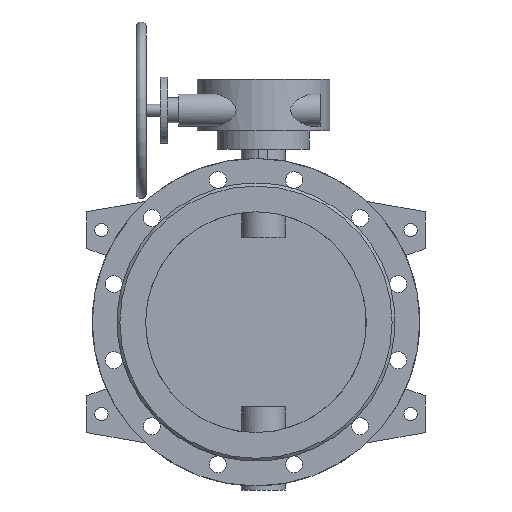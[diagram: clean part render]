
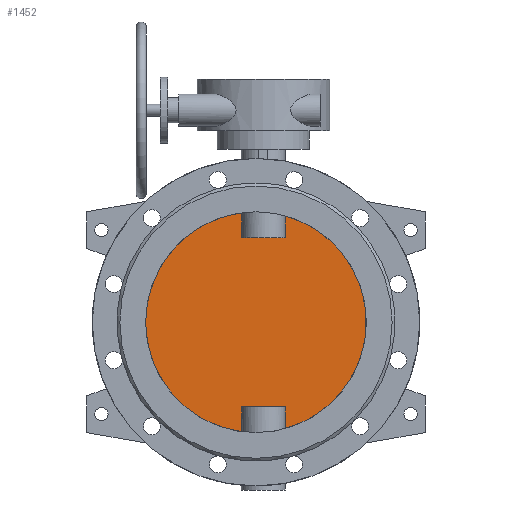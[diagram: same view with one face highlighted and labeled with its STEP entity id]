
A CAD part, front view. The second image highlights one B-rep face of the part: STEP entity #1452.
In plain terms, the highlighted planar face has unit normal (0, -1, 0).
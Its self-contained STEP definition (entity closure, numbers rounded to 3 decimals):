
#1452=ADVANCED_FACE('',(#2916),#2918,.F.);
#2916=FACE_BOUND('',#2917,.T.);
#2917=EDGE_LOOP('',(#3874,#3875,#3876,#3877,#3878,#3879,#3880,#3881));
#2918=PLANE('',#2919);
#2919=AXIS2_PLACEMENT_3D('',#2920,#2921,#2922);
#2920=CARTESIAN_POINT('',(0.,-5.,0.));
#2921=DIRECTION('',(0.,1.,0.));
#2922=DIRECTION('',(1.,0.,0.));
#3874=ORIENTED_EDGE('',*,*,#4333,.T.);
#3875=ORIENTED_EDGE('',*,*,#4343,.T.);
#3876=ORIENTED_EDGE('',*,*,#4344,.T.);
#3877=ORIENTED_EDGE('',*,*,#4345,.T.);
#3878=ORIENTED_EDGE('',*,*,#4335,.T.);
#3879=ORIENTED_EDGE('',*,*,#4346,.T.);
#3880=ORIENTED_EDGE('',*,*,#4347,.T.);
#3881=ORIENTED_EDGE('',*,*,#4348,.T.);
#4333=EDGE_CURVE('',#5080,#5081,#5082,.F.);
#4335=EDGE_CURVE('',#5085,#5083,#5086,.F.);
#4343=EDGE_CURVE('',#5081,#5100,#5101,.T.);
#4344=EDGE_CURVE('',#5100,#5102,#5103,.F.);
#4345=EDGE_CURVE('',#5102,#5085,#5104,.F.);
#4346=EDGE_CURVE('',#5083,#5105,#5106,.F.);
#4347=EDGE_CURVE('',#5105,#5107,#5108,.F.);
#4348=EDGE_CURVE('',#5107,#5080,#5109,.T.);
#5080=VERTEX_POINT('',#8920);
#5081=VERTEX_POINT('',#8921);
#5082=CIRCLE('',#8922,150.);
#5083=VERTEX_POINT('',#8926);
#5085=VERTEX_POINT('',#9032);
#5086=CIRCLE('',#9033,150.);
#5100=VERTEX_POINT('',#9184);
#5101=LINE('',#9185,#9186);
#5102=VERTEX_POINT('',#9188);
#5103=LINE('',#9189,#9190);
#5104=LINE('',#9192,#9193);
#5105=VERTEX_POINT('',#9195);
#5106=LINE('',#9196,#9197);
#5107=VERTEX_POINT('',#9199);
#5108=LINE('',#9200,#9201);
#5109=LINE('',#9203,#9204);
#8920=CARTESIAN_POINT('',(39.58,-5.,-144.684));
#8921=CARTESIAN_POINT('',(39.58,-5.,144.684));
#8922=AXIS2_PLACEMENT_3D('',#8923,#8924,#8925);
#8923=CARTESIAN_POINT('',(0.,-5.,0.));
#8924=DIRECTION('',(0.,1.,0.));
#8925=DIRECTION('',(0.264,0.,0.965));
#8926=CARTESIAN_POINT('',(-19.58,-5.,-148.717));
#9032=CARTESIAN_POINT('',(-19.58,-5.,148.717));
#9033=AXIS2_PLACEMENT_3D('',#9034,#9035,#9036);
#9034=CARTESIAN_POINT('',(0.,-5.,0.));
#9035=DIRECTION('',(0.,1.,0.));
#9036=DIRECTION('',(-0.131,0.,-0.991));
#9184=CARTESIAN_POINT('',(39.58,-5.,115.));
#9185=CARTESIAN_POINT('',(39.58,-5.,144.684));
#9186=VECTOR('',#9187,1.);
#9187=DIRECTION('',(0.,0.,-1.));
#9188=CARTESIAN_POINT('',(-19.58,-5.,115.));
#9189=CARTESIAN_POINT('',(-19.58,-5.,115.));
#9190=VECTOR('',#9191,1.);
#9191=DIRECTION('',(1.,0.,0.));
#9192=CARTESIAN_POINT('',(-19.58,-5.,148.717));
#9193=VECTOR('',#9194,1.);
#9194=DIRECTION('',(0.,0.,-1.));
#9195=CARTESIAN_POINT('',(-19.58,-5.,-115.));
#9196=CARTESIAN_POINT('',(-19.58,-5.,-115.));
#9197=VECTOR('',#9198,1.);
#9198=DIRECTION('',(0.,0.,-1.));
#9199=CARTESIAN_POINT('',(39.58,-5.,-115.));
#9200=CARTESIAN_POINT('',(39.58,-5.,-115.));
#9201=VECTOR('',#9202,1.);
#9202=DIRECTION('',(-1.,0.,0.));
#9203=CARTESIAN_POINT('',(39.58,-5.,-115.));
#9204=VECTOR('',#9205,1.);
#9205=DIRECTION('',(0.,0.,-1.));
